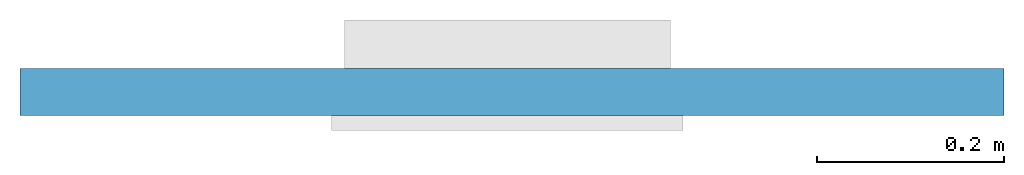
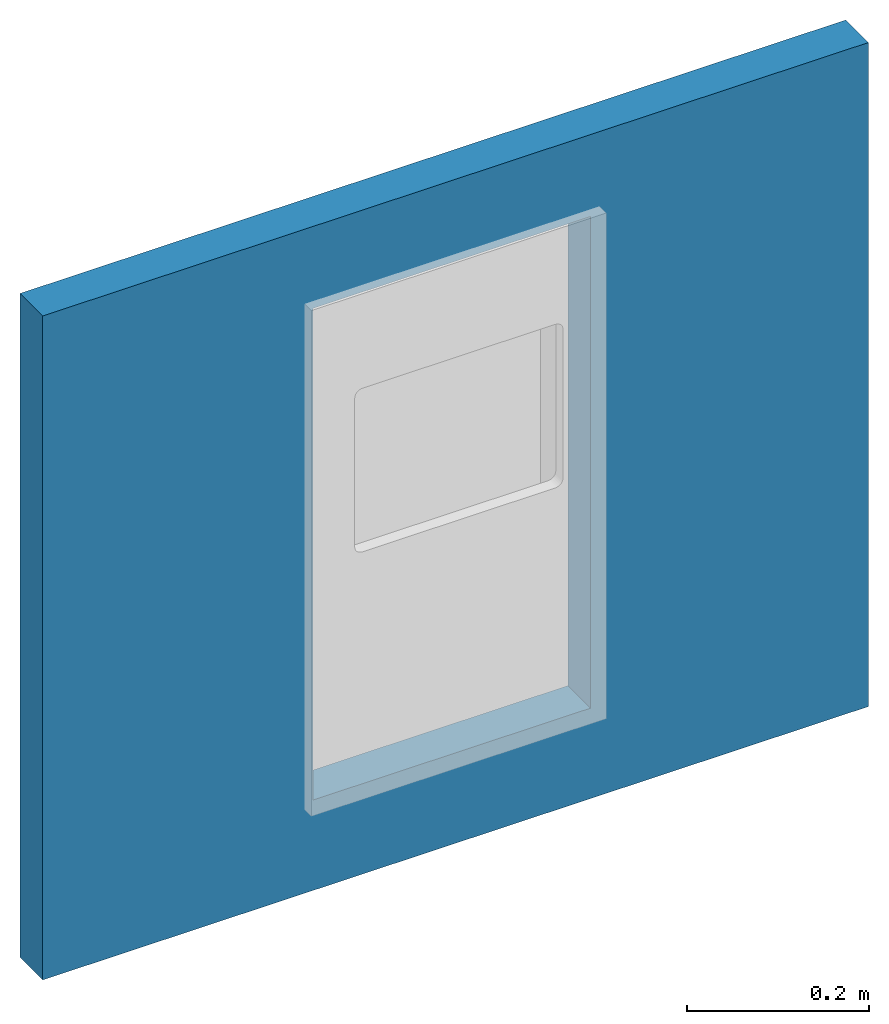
# One storey, part 1 of 2: 1 wall, 1 opening.
"""IFC2X3 building model written with IfcOpenShell, lengths in millimetres."""

from ifc_helpers import new_model, entity, si_unit, converted_unit, derived_unit, direction, frame, frame_2d, origin, origin_2d_with_axis, place, context, subcontext, project, spatial, rectangle, extrude, material, layer, layer_set, layer_usage, type_object, element, save


model = new_model("IFC2X3")

# Units and contexts
model_context = context("Model", 3, precision=1e-05, world=origin(), true_north=direction((2.0, 6.12303176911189e-17, 1.0)))
context_of_model = context(None, 3, precision=1e-05, world=origin(), true_north=direction((2.0, 6.12303176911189e-17, 1.0)))
body_context = subcontext(model_context, "Body", "Model", "MODEL_VIEW")
ifc_project = project(units=[si_unit("LENGTHUNIT", "METRE", prefix="MILLI"), si_unit("AREAUNIT", "SQUARE_METRE"), si_unit("VOLUMEUNIT", "CUBIC_METRE"), converted_unit("PLANEANGLEUNIT", "DEGREE", entity("IfcRatioMeasure", 0.0174532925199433), si_unit("PLANEANGLEUNIT", "RADIAN"), dimensions=[0, 0, 0, 0, 0, 0, 0]), si_unit("MASSUNIT", "GRAM", prefix="KILO"), si_unit("TIMEUNIT", "SECOND"), si_unit("THERMODYNAMICTEMPERATUREUNIT", "KELVIN"), derived_unit("THERMALTRANSMITTANCEUNIT", [(si_unit("MASSUNIT", "GRAM", prefix="KILO"), 1), (si_unit("THERMODYNAMICTEMPERATUREUNIT", "KELVIN"), -1), (si_unit("TIMEUNIT", "SECOND"), -3)]), derived_unit("VOLUMETRICFLOWRATEUNIT", [(si_unit("LENGTHUNIT", "METRE"), 3), (si_unit("TIMEUNIT", "SECOND"), -1)]), si_unit("POWERUNIT", "WATT")], contexts=[model_context, context_of_model])

# Site, building, storey
site_placement = place(None, origin())
site = spatial("IfcSite", under=ifc_project, at=site_placement, Name="Default", CompositionType="ELEMENT")
building_placement = place(site_placement, origin())
building = spatial("IfcBuilding", under=site, at=building_placement, CompositionType="ELEMENT")
storey_placement = place(building_placement, origin())
storey = spatial("IfcBuildingStorey", under=building, at=storey_placement, Name="Level 1", CompositionType="ELEMENT", Elevation=0.0)

# Wall, opening
ifc_material = material(Name="Default Wall")
ifc_layer = layer(ifc_material, 50.0)
ifc_layer_set = layer_set([ifc_layer], Name="Basic Wall:Wall 1")
ifc_layer_usage = layer_usage(ifc_layer_set, "AXIS2", "NEGATIVE", 25.0)
wall_type = type_object("IfcWallType", Name="Basic Wall:Wall 1", PredefinedType="STANDARD", material=ifc_layer_set)
wall_placement = place(storey_placement, frame((-340.686924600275, 55.1278037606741, 95.7468172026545)))
wall = element("IfcWallStandardCase", 1, at=wall_placement, inside=storey, type_object=wall_type, material=ifc_layer_usage, Name="Basic Wall:Wall 1:3092", ObjectType="Basic Wall:Wall 1:1494", context=body_context, shape_type="SweptSolid", body=[
    extrude(rectangle(XDim=1050.0, YDim=50.0, at=frame_2d((525.0, 5.32907051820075e-15), x_axis=(-1.0, 0.0))), origin(), (0.0, 0.0, 1.0), 892.669909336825),
])
opening_placement = place(wall_placement, origin())
element("IfcOpeningElement", 2, at=opening_placement, cuts=wall, ObjectType="Opening", context=body_context, shape_type="SweptSolid", body=[
    extrude(rectangle(XDim=661.020310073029, YDim=353.060092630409, at=origin_2d_with_axis()), frame((520.148109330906, -25.0, 452.059009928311), z_axis=(0.0, 1.0, 0.0), x_axis=(0.0, 0.0, -1.0)), (0.0, 0.0, 1.0), 50.0),
])

save(model, "model.ifc")
